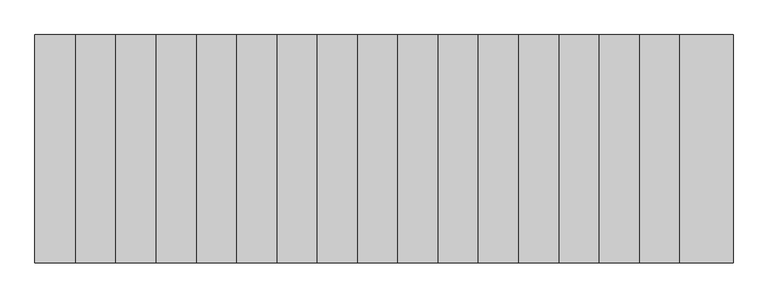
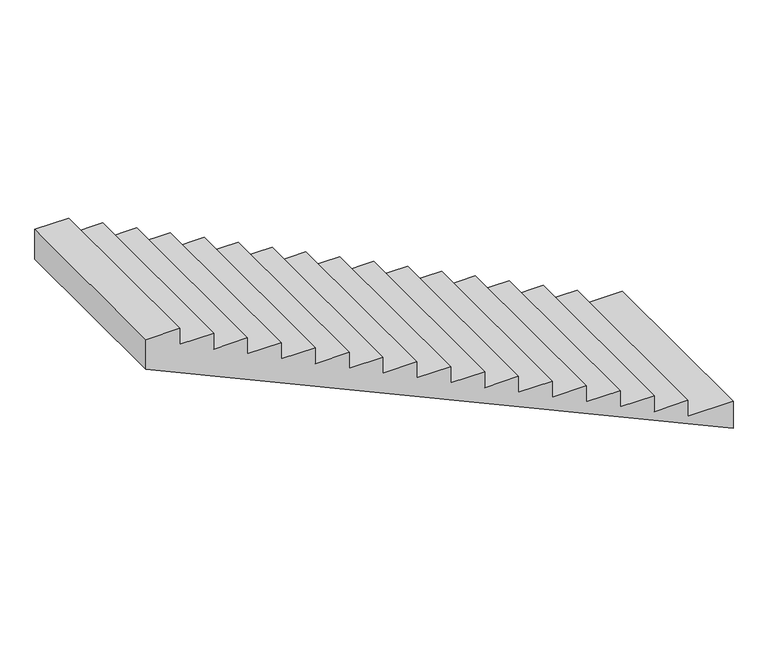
"""IFC4 building model written with IfcOpenShell, lengths in millimetres: fastener geometry, TQS - Escada Família6 : TQS - Escada Família6."""

import ifcopenshell
import ifcopenshell.guid

model = None  # the IFC model being written
_history = None  # IfcOwnerHistory: only IFC2X3 demands one
_inside = {}  # id of a spatial element -> (the spatial element, [elements in it])
_under = {}  # id of a project, library or spatial element -> (it, [spatial elements below it])
_declared = {}  # id of a project -> (the project, [libraries it declares])
_typed = {}  # id of a type object -> (the type object, [elements of that type])
_made_of = {}  # id of a material, layer set ... -> (it, [elements and type objects made of it])


def new_model(schema):
    """Start an empty IFC model of exactly this schema.

    Asked for "IFC4X3", IfcOpenShell would pick the latest addendum, in which some entities
    have other attributes; the version numbers below select the first issue.
    IFC2X3 requires an IfcOwnerHistory on every rooted entity: one is made here for all.
    """
    global model, _history
    if schema == "IFC4X3":
        model = ifcopenshell.file(schema_version=(4, 3, 0, 0))
    else:
        model = ifcopenshell.file(schema=schema)
    _inside.clear()
    _under.clear()
    _declared.clear()
    _typed.clear()
    _made_of.clear()
    _history = None
    if model.schema == "IFC2X3":
        org = make("IfcOrganization", Name="unknown")
        user = make(
            "IfcPersonAndOrganization",
            ThePerson=make("IfcPerson", FamilyName="unknown"),
            TheOrganization=org,
        )
        app = make(
            "IfcApplication",
            ApplicationDeveloper=org,
            Version="unknown",
            ApplicationFullName="unknown",
            ApplicationIdentifier="unknown",
        )
        _history = make(
            "IfcOwnerHistory",
            OwningUser=user,
            OwningApplication=app,
            ChangeAction="ADDED",
            CreationDate=0,
        )
    return model


def make(cls, **values):
    """One entity of the class cls with the attributes given. An attribute that is None is left unset."""
    return model.create_entity(
        cls, **{name: value for name, value in values.items() if value is not None}
    )


def rooted(cls, **values):
    """An entity with a GlobalId (a new one), such as an element, a storey or a relation."""
    return make(cls, GlobalId=ifcopenshell.guid.new(), OwnerHistory=_history, **values)


def si_unit(unit_type, name, prefix=None):
    """IfcSIUnit, for example si_unit("LENGTHUNIT", "METRE", prefix="MILLI")."""
    return make("IfcSIUnit", UnitType=unit_type, Prefix=prefix, Name=name)


def assignment(units):
    """IfcUnitAssignment: the units of a project."""
    return None if units is None else make("IfcUnitAssignment", Units=units)


def point(xyz):
    """IfcCartesianPoint."""
    return None if xyz is None else make("IfcCartesianPoint", Coordinates=xyz)


def direction(xyz):
    """IfcDirection."""
    return None if xyz is None else make("IfcDirection", DirectionRatios=xyz)


def frame(location, z_axis=None, x_axis=None):
    """IfcAxis2Placement3D, a coordinate frame: its origin and axes. An axis left out is left unset."""
    return make(
        "IfcAxis2Placement3D",
        Location=point(location),
        Axis=direction(z_axis),
        RefDirection=direction(x_axis),
    )


def origin():
    """The frame at (0, 0, 0) with its axes left unset."""
    return frame((0.0, 0.0, 0.0))


def place(relative_to, where):
    """IfcLocalPlacement: puts the frame where relative to a parent placement (None: the world)."""
    return make(
        "IfcLocalPlacement", PlacementRelTo=relative_to, RelativePlacement=where
    )


def context(
    kind, dimensions, precision=None, world=None, true_north=None, identifier=None
):
    """IfcGeometricRepresentationContext, for example the 3D "Model" context."""
    return make(
        "IfcGeometricRepresentationContext",
        ContextIdentifier=identifier,
        ContextType=kind,
        CoordinateSpaceDimension=dimensions,
        Precision=precision,
        WorldCoordinateSystem=world,
        TrueNorth=true_north,
    )


def project(units=None, contexts=None):
    """IfcProject with its units and contexts."""
    return rooted(
        "IfcProject",
        Name="project",
        RepresentationContexts=contexts,
        UnitsInContext=assignment(units),
    )


def spatial(cls, under=None, at=None, **own):
    """A site, building, storey or space (cls), placed at a placement, below another one or the project."""
    s = rooted(cls, ObjectPlacement=at, **own)
    if under is not None:
        _under.setdefault(under.id(), (under, []))[1].append(s)
    return s


def polyline(points):
    """IfcPolyline through the points."""
    return make("IfcPolyline", Points=[point(p) for p in points])


def outline(outer, holes=None, kind="AREA"):
    """IfcArbitraryClosedProfileDef: a profile drawn as a closed curve; with holes, ...WithVoids."""
    if holes is None:
        return make("IfcArbitraryClosedProfileDef", ProfileType=kind, OuterCurve=outer)
    return make(
        "IfcArbitraryProfileDefWithVoids",
        ProfileType=kind,
        OuterCurve=outer,
        InnerCurves=holes,
    )


def extrude(swept, where, along, depth):
    """IfcExtrudedAreaSolid: the profile swept, set in the frame where, extruded along a direction by depth."""
    return make(
        "IfcExtrudedAreaSolid",
        SweptArea=swept,
        Position=where,
        ExtrudedDirection=direction(along),
        Depth=depth,
    )


def shape(context_of_items, identifier, shape_type, items):
    """IfcShapeRepresentation: the items that make up one representation, for example the "Body"."""
    return make(
        "IfcShapeRepresentation",
        ContextOfItems=context_of_items,
        RepresentationIdentifier=identifier,
        RepresentationType=shape_type,
        Items=items,
    )


def source(mapping_origin, context_of_items, identifier, shape_type, items):
    """IfcRepresentationMap: a shape defined once, which mapped items show again and again."""
    return make(
        "IfcRepresentationMap",
        MappingOrigin=mapping_origin,
        MappedRepresentation=shape(context_of_items, identifier, shape_type, items),
    )


def transform(
    local_origin,
    x_axis=None,
    y_axis=None,
    z_axis=None,
    scale=None,
    scale2=None,
    scale3=None,
    uniform=True,
):
    """IfcCartesianTransformationOperator3D, or its non-uniform kind. x_axis, y_axis, z_axis: its Axis1, 2, 3."""
    if uniform:
        return make(
            "IfcCartesianTransformationOperator3D",
            Axis1=direction(x_axis),
            Axis2=direction(y_axis),
            LocalOrigin=point(local_origin),
            Scale=scale,
            Axis3=direction(z_axis),
        )
    return make(
        "IfcCartesianTransformationOperator3DnonUniform",
        Axis1=direction(x_axis),
        Axis2=direction(y_axis),
        LocalOrigin=point(local_origin),
        Scale=scale,
        Axis3=direction(z_axis),
        Scale2=scale2,
        Scale3=scale3,
    )


def mapped(mapping_source, mapping_target):
    """IfcMappedItem: shows the shape of a source again, moved by a transform."""
    return make(
        "IfcMappedItem", MappingSource=mapping_source, MappingTarget=mapping_target
    )


def made_of(thing, what):
    """Note that an element or type object is made of a material, layer set ...; save() writes the relation."""
    if what is not None:
        _made_of.setdefault(what.id(), (what, []))[1].append(thing)
    return thing


def element(
    cls,
    number,
    at=None,
    inside=None,
    cuts=None,
    type_object=None,
    material=None,
    context=None,
    identifier="Body",
    shape_type=None,
    held_by="IfcProductDefinitionShape",
    body=None,
    shapes=None,
    **own,
):
    """One element of the class cls, such as IfcWall. Its Tag is "e" and its number.

    at: its placement. inside: the storey or other place that contains it. cuts: it is an
    opening in that element (IfcRelVoidsElement). A single representation is given by context,
    identifier, shape_type and body (its items); several are given by shapes. held_by: the class
    of the entity that holds the representations. save() writes the other relations.
    """
    e = rooted(cls, Tag="e%d" % number, ObjectPlacement=at, **own)
    if body is not None:
        shapes = [shape(context, identifier, shape_type, body)]
    if shapes is not None:
        e.Representation = make(held_by, Representations=shapes)
    if inside is not None:
        _inside.setdefault(inside.id(), (inside, []))[1].append(e)
    if cuts is not None:
        rooted(
            "IfcRelVoidsElement", RelatingBuildingElement=cuts, RelatedOpeningElement=e
        )
    if type_object is not None:
        _typed.setdefault(type_object.id(), (type_object, []))[1].append(e)
    return made_of(e, material)


def aggregate(whole, parts):
    """IfcRelAggregates: a whole, such as a stair, and the parts it consists of."""
    return rooted("IfcRelAggregates", RelatingObject=whole, RelatedObjects=parts)


def save(model, path):
    """Write the relations noted so far, then the file.

    IfcRelAggregates (storeys below a building ...), IfcRelContainedInSpatialStructure (elements
    in a storey), IfcRelDefinesByType, IfcRelAssociatesMaterial and IfcRelDeclares: one each for
    every whole, place, type object, material and project.
    """
    for whole, parts in _under.values():
        aggregate(whole, parts)
    for where, things in _inside.values():
        rooted(
            "IfcRelContainedInSpatialStructure",
            RelatedElements=things,
            RelatingStructure=where,
        )
    for kind, things in _typed.values():
        rooted("IfcRelDefinesByType", RelatedObjects=things, RelatingType=kind)
    for what, things in _made_of.values():
        rooted("IfcRelAssociatesMaterial", RelatedObjects=things, RelatingMaterial=what)
    for by, libraries in _declared.values():
        rooted("IfcRelDeclares", RelatingContext=by, RelatedDefinitions=libraries)
    model.write(path)


def fastener_4eab256e(model_context):
    return source(origin(), model_context, "Body", "SweptSolid", [
        extrude(outline(polyline([(4500.0000954, 2000.0), (4500.0000954, 1700.0), (4220.4915982, 1700.0), (1850.0000954, 6900.0), (2100.0000954, 6900.0), (2100.0000954, 6500.0), (2250.0000954, 6500.0), (2250.0000954, 6200.0), (2400.0000954, 6200.0), (2400.0000954, 5900.0), (2550.0000954, 5900.0), (2550.0000954, 5600.0), (2700.0000954, 5600.0), (2700.0000954, 5300.0), (2850.0000954, 5300.0), (2850.0000954, 5000.0), (3000.0000954, 5000.0), (3000.0000954, 4700.0), (3150.0000954, 4700.0), (3150.0000954, 4400.0), (3300.0000954, 4400.0), (3300.0000954, 4100.0), (3450.0000954, 4100.0), (3450.0000954, 3800.0), (3600.0000954, 3800.0), (3600.0000954, 3500.0), (3750.0000954, 3500.0), (3750.0000954, 3200.0), (3900.0000954, 3200.0), (3900.0000954, 2900.0), (4050.0000954, 2900.0), (4050.0000954, 2600.0), (4200.0000954, 2600.0), (4200.0000954, 2300.0), (4350.0000954, 2300.0), (4350.0000954, 2000.0), (4500.0000954, 2000.0)])), frame((0.0, 4300.0, 0.0), z_axis=(0.0, 1.0, 0.0), x_axis=(0.0, 0.0, 1.0)), (0.0, 0.0, 1.0), 1700.0),
    ])


if __name__ == "__main__":
    model = new_model("IFC4")
    model_context = context("Model", 3, world=origin())
    ifc_project = project(units=[si_unit("LENGTHUNIT", "METRE", prefix="MILLI")], contexts=[model_context])
    site = spatial("IfcSite", under=ifc_project)
    building = spatial("IfcBuilding", under=site)
    placement = place(None, origin())
    fastener_shape = fastener_4eab256e(model_context)
    element("IfcFastener", 1, ObjectType="TQS - Escada Família6 : TQS - Escada Família6", at=placement, inside=building, context=model_context, shape_type="MappedRepresentation", body=[
        mapped(fastener_shape, transform((0.0, 0.0, 0.0), x_axis=(1.0, 0.0, 0.0), y_axis=(0.0, 1.0, 0.0), z_axis=(0.0, 0.0, 1.0))),
    ])
    save(model, "model.ifc")
